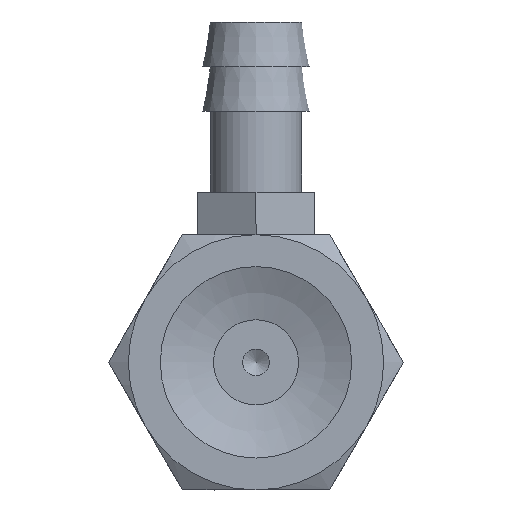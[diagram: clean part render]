
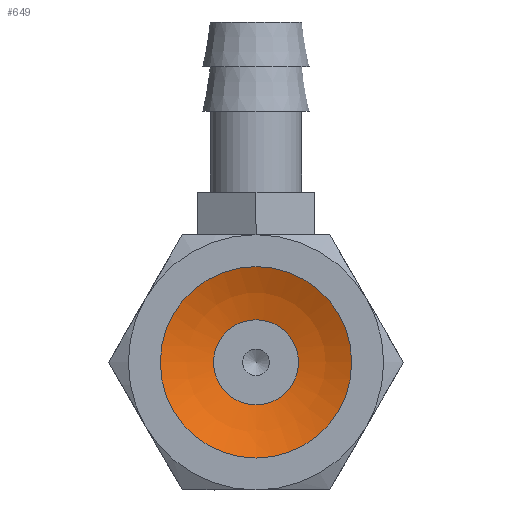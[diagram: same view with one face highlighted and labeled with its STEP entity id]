
A CAD part, front view. The second image highlights one B-rep face of the part: STEP entity #649.
In plain terms, the highlighted spherical face has radius 10.203 mm.
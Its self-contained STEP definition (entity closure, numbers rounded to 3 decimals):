
#649=ADVANCED_FACE('',(#1006,#1007),#1008,.F.);
#1006=FACE_OUTER_BOUND('',#1412,.T.);
#1007=FACE_OUTER_BOUND('',#1413,.T.);
#1008=SPHERICAL_SURFACE('',#1414,10.203);
#1412=EDGE_LOOP('',(#2401));
#1413=EDGE_LOOP('',(#2402));
#1414=AXIS2_PLACEMENT_3D('',#2403,#2404,#2405);
#2401=ORIENTED_EDGE('',*,*,#2820,.T.);
#2402=ORIENTED_EDGE('',*,*,#2811,.F.);
#2403=CARTESIAN_POINT('',(0.,-9.157,0.));
#2404=DIRECTION('',(0.0,-1.0,0.));
#2405=DIRECTION('',(1.0,0.0,0.0));
#2811=EDGE_CURVE('',#3268,#3268,#3269,.T.);
#2820=EDGE_CURVE('',#3286,#3286,#3287,.T.);
#3268=VERTEX_POINT('',#4378);
#3269=CIRCLE('',#4379,2.);
#3286=VERTEX_POINT('',#4396);
#3287=CIRCLE('',#4397,4.5);
#4378=CARTESIAN_POINT('',(0.0,0.848,-2.));
#4379=AXIS2_PLACEMENT_3D('',#4825,#4826,#4827);
#4396=CARTESIAN_POINT('',(0.0,0.,-4.5));
#4397=AXIS2_PLACEMENT_3D('',#4852,#4853,#4854);
#4825=CARTESIAN_POINT('',(0.0,0.848,0.0));
#4826=DIRECTION('',(0.0,-1.0,0.));
#4827=DIRECTION('',(0.0,0.,-1.0));
#4852=CARTESIAN_POINT('',(0.0,0.,0.0));
#4853=DIRECTION('',(0.0,-1.0,0.));
#4854=DIRECTION('',(0.0,0.,-1.0));
